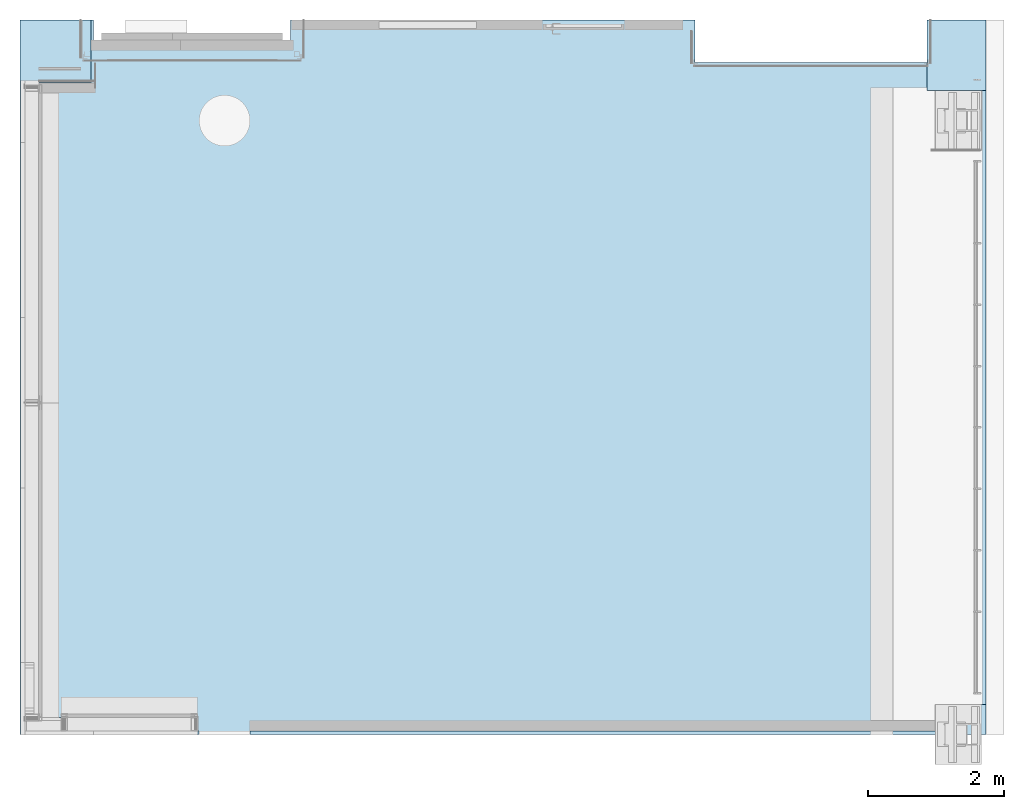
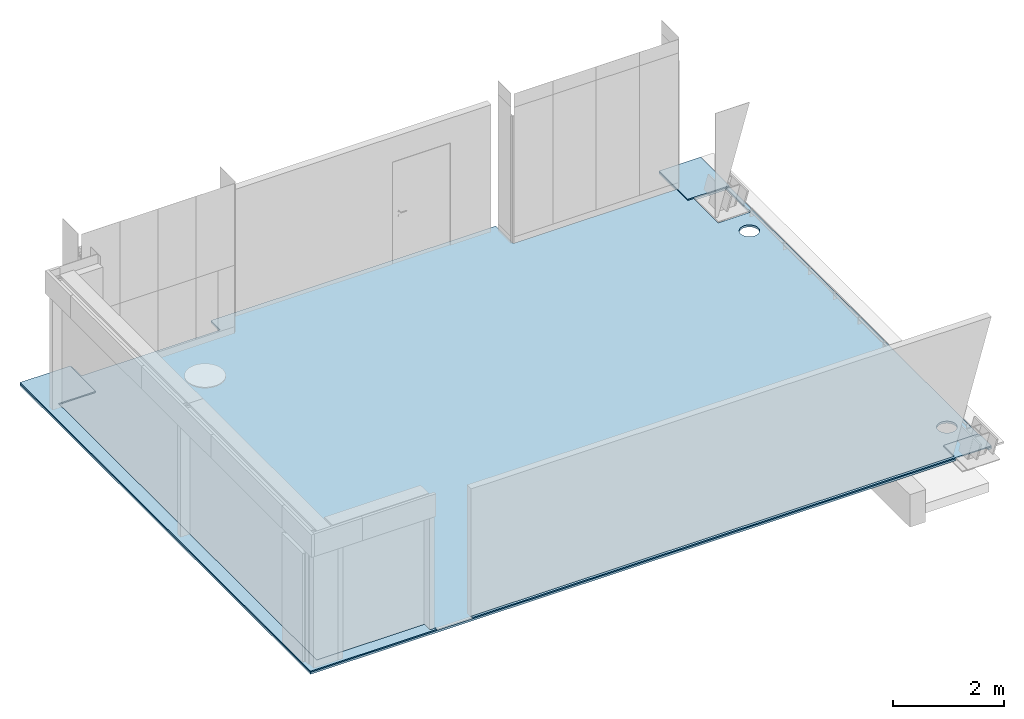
# One storey, part 8 of 14: 2 slabs.
"""IFC2X3 building model written with IfcOpenShell, lengths in millimetres."""

from ifc_helpers import new_model, entity, si_unit, converted_unit, derived_unit, direction, frame, origin_with_axes, place, context, subcontext, project, spatial, faceted_brep, material, layer, layer_set, type_object, element, save


model = new_model("IFC2X3")

# Units and contexts
model_context = context("Model", 3, precision=0.01, world=frame((0.0, 4.29681676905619e-09, 0.0)), true_north=direction((4.01073788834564e-13, 1.0)))
plan_context = context("Plan", 3, precision=0.01, world=frame((0.0, 4.29681676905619e-09, 0.0)), true_north=direction((4.01073788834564e-13, 1.0)))
body_context = subcontext(model_context, "Body", "Model", "MODEL_VIEW")
ifc_project = project(units=[converted_unit("PLANEANGLEUNIT", "DEGREE", entity("IfcPositiveLengthMeasure", 0.0174532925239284), si_unit("PLANEANGLEUNIT", "RADIAN"), dimensions=[0, 0, 0, 0, 0, 0, 0]), si_unit("AREAUNIT", "SQUARE_METRE"), si_unit("LENGTHUNIT", "METRE", prefix="MILLI"), si_unit("MASSUNIT", "GRAM", prefix="KILO"), si_unit("POWERUNIT", "WATT"), si_unit("PRESSUREUNIT", "PASCAL"), si_unit("FORCEUNIT", "NEWTON", prefix="KILO"), si_unit("ELECTRICVOLTAGEUNIT", "VOLT"), si_unit("ELECTRICCURRENTUNIT", "AMPERE"), si_unit("THERMODYNAMICTEMPERATUREUNIT", "DEGREE_CELSIUS"), si_unit("TIMEUNIT", "SECOND"), si_unit("VOLUMEUNIT", "CUBIC_METRE"), derived_unit("LINEARVELOCITYUNIT", [(si_unit("LENGTHUNIT", "METRE"), 1), (si_unit("TIMEUNIT", "SECOND"), -1)]), derived_unit("VOLUMETRICFLOWRATEUNIT", [(si_unit("VOLUMEUNIT", "CUBIC_METRE"), 1), (si_unit("TIMEUNIT", "SECOND"), -1)]), derived_unit("THERMALTRANSMITTANCEUNIT", [(si_unit("POWERUNIT", "WATT"), 1), (si_unit("THERMODYNAMICTEMPERATUREUNIT", "KELVIN"), -1), (si_unit("AREAUNIT", "SQUARE_METRE"), -1)]), derived_unit("SOUNDPRESSUREUNIT", [(si_unit("PRESSUREUNIT", "PASCAL"), 1)])], contexts=[model_context, plan_context])

# Site, building, storey
site_placement = place(None, origin_with_axes())
site = spatial("IfcSite", under=ifc_project, at=site_placement, Name="ENGM", CompositionType="ELEMENT")
building_placement = place(site_placement, origin_with_axes())
building = spatial("IfcBuilding", under=site, at=building_placement, Name="TI", CompositionType="ELEMENT")
storey_placement = place(building_placement, frame((0.0, 0.0, 210900.0), z_axis=(0.0, 0.0, 1.0), x_axis=(1.0, 0.0, 0.0)))
storey = spatial("IfcBuildingStorey", under=building, at=storey_placement, Name="Nivå F", CompositionType="ELEMENT", Elevation=210900.0)

# Slabs
ifc_material_1 = material(Name="T2_Tregulv Gulvplaner")
ifc_layer_1 = layer(ifc_material_1, 25.0)
ifc_layer_set_1 = layer_set([ifc_layer_1], Name="Floor:A254 - Tregulv inkl. lim - 25 mm")
slab_type_1 = type_object("IfcSlabType", Name="Floor:A254 - Tregulv inkl. lim - 25 mm", PredefinedType="FLOOR", material=ifc_layer_set_1)
slab_1_placement = place(storey_placement, frame((558471.991443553, 560500.0, -25.0), z_axis=(0.0, 0.0, 1.0), x_axis=(1.0, 0.0, 0.0)))
element("IfcSlab", 1, at=slab_1_placement, inside=storey, type_object=slab_type_1, Name="Floor:A254 - Tregulv inkl. lim - 25 mm", ObjectType="Floor:A254 - Tregulv inkl. lim - 25 mm", PredefinedType="FLOOR", context=body_context, shape_type="Brep", body=[
    faceted_brep([(53694.2741135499, 138975.499999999, 25.0), (53694.2741135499, 138975.499999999, -1.16386900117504e-11), (53694.2741135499, 137940.163867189, -1.16386900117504e-11), (53694.2741135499, 137940.163867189, 25.0), (52828.0153923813, 137940.163867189, -1.16386900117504e-11), (52828.0153923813, 137940.163867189, 25.0), (52828.0153923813, 138975.499999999, -1.16386900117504e-11), (52828.0153923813, 138975.499999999, 25.0), (40570.0125603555, 138975.499999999, 25.0), (40570.0125603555, 138975.499999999, -1.16386900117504e-11), (40570.0125603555, 138052.499999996, -1.16386900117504e-11), (40570.0125603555, 138052.499999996, 25.0), (39798.0085564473, 138052.499999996, -1.16386900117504e-11), (39798.0085564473, 138052.499999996, 25.0), (39798.0085564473, 128750.020350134, -1.16386900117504e-11), (39798.0085564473, 128750.020350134, 25.0), (42043.0085564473, 128750.020350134, -1.16386900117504e-11), (42043.0085564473, 128750.020350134, 25.0), (42043.0085564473, 128550.0, -1.16386900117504e-11), (42043.0085564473, 128550.0, 25.0), (42156.3568377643, 128550.0, -1.16386900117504e-11), (42156.3568377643, 128550.0, 25.0), (42153.9296742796, 128499.999999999, -1.16386900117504e-11), (42153.9296742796, 128499.999999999, 25.0), (42902.087438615, 128499.999999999, 25.0), (42902.087438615, 128499.999999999, -1.16386900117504e-11), (42899.6602751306, 128550.0, -1.16386900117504e-11), (42899.6602751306, 128550.0, 25.0), (52953.2069707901, 128550.0, -1.16386900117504e-11), (52953.2069707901, 128550.0, 25.0), (52953.2069707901, 128940.0, -1.16386900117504e-11), (52953.2069707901, 128940.0, 25.0), (53694.2741135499, 128940.0, -1.16386900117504e-11), (53694.2741135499, 128940.0, 25.0), (53694.2741135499, 128499.999999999, -1.16386900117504e-11), (53694.2741135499, 128499.999999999, 25.0), (39528.0085563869, 128499.999999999, 24.9999999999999), (39528.0085563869, 138975.499999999, 24.9999999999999), (39528.0085563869, 138975.499999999, -1.17097442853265e-11), (39528.0085563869, 128499.999999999, -1.17097442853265e-11)], [[[0, 1, 2, 3]], [[3, 2, 4, 5]], [[6, 7, 5, 4]], [[8, 9, 10, 11]], [[11, 10, 12, 13]], [[13, 12, 14, 15]], [[15, 14, 16, 17]], [[17, 16, 18, 19]], [[19, 18, 20, 21]], [[22, 23, 21, 20]], [[24, 25, 26, 27]], [[27, 26, 28, 29]], [[29, 28, 30, 31]], [[31, 30, 32, 33]], [[34, 35, 33, 32]], [[7, 0, 3, 5]], [[23, 36, 37, 8, 11, 13, 15, 17, 19, 21]], [[35, 24, 27, 29, 31, 33]], [[25, 34, 32, 30, 28, 26]], [[9, 38, 39, 22, 20, 18, 16, 14, 12, 10]], [[1, 6, 4, 2]], [[38, 9, 8, 37]], [[7, 6, 1, 0]], [[37, 36, 39, 38]], [[36, 23, 22, 39]], [[35, 34, 25, 24]]], orient=[[False], [False], [False], [False], [False], [False], [False], [False], [False], [False], [False], [False], [False], [False], [False], [False], [False], [False], [False], [False], [False], [False], [False], [False], [False], [False]]),
])
ifc_material_2 = material(Name="T2_Mørtel")
ifc_layer_2 = layer(ifc_material_2, 45.0)
ifc_layer_set_2 = layer_set([ifc_layer_2], Name="Floor:A254 - Avretting 45mm")
slab_type_2 = type_object("IfcSlabType", Name="Floor:A254 - Avretting 45mm", PredefinedType="FLOOR", material=ifc_layer_set_2)
slab_2_placement = place(storey_placement, frame((557800.0, 487399.909911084, -70.0), z_axis=(0.0, 0.0, 1.0), x_axis=(1.0, 0.0, 0.0)))
element("IfcSlab", 2, at=slab_2_placement, inside=storey, type_object=slab_type_2, Name="Floor:A254 - Avretting 45mm", ObjectType="Floor:A254 - Avretting 45mm", PredefinedType="FLOOR", context=body_context, shape_type="Brep", body=[
    faceted_brep([(54366.2655571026, 212075.590088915, 45.0), (54366.2655571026, 212075.590088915, -7.0983219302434e-12), (54366.2655571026, 201600.090088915, -7.0983219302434e-12), (54366.2655571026, 201600.090088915, 45.0), (54298.1279316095, 201600.090088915, 45.0), (54298.1279316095, 202040.253956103, 45.0), (53625.1984143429, 202040.253956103, 45.0), (53625.1984143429, 201600.090088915, 45.0), (40199.9999999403, 201600.090088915, 44.9999999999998), (40199.9999999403, 212075.590088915, 44.9999999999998), (41280.0040039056, 212075.590088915, 45.0), (41280.0040039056, 211735.090088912, 45.0), (44169.9965820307, 211735.090088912, 45.0), (44169.9965820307, 212075.590088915, 45.0), (50100.0068359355, 212075.590088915, 45.0), (50100.0068359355, 211450.090088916, 45.0), (53500.0068359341, 211450.090088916, 45.0), (53500.0068359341, 212075.590088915, 45.0), (53625.1984143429, 211040.253956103, 45.0), (53625.1984143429, 210160.253956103, 45.0), (54298.1279316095, 210160.253956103, 45.0), (54298.1279316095, 211040.253956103, 45.0), (54158.8431348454, 211603.527682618, 45.0), (54145.2146997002, 211632.753956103, 45.0), (54126.718221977, 211659.169663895, 45.0), (54103.915707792, 211681.97217808, 45.0), (54077.5, 211700.468655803, 45.0), (54048.2737265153, 211714.097090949, 45.0), (54017.1249128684, 211722.44339041, 45.0), (53985.0, 211725.253956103, 45.0), (53952.8750871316, 211722.44339041, 45.0), (53921.7262734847, 211714.097090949, 45.0), (53892.5, 211700.468655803, 45.0), (53866.084292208, 211681.97217808, 45.0), (53843.281778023, 211659.169663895, 45.0), (53824.7853002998, 211632.753956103, 45.0), (53811.1568651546, 211603.527682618, 45.0), (53802.8105656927, 211572.378868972, 45.0), (53799.9999999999, 211540.253956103, 45.0), (53802.8105656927, 211508.129043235, 45.0), (53811.1568651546, 211476.980229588, 45.0), (53824.7853002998, 211447.753956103, 45.0), (53843.281778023, 211421.338248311, 45.0), (53866.084292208, 211398.535734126, 45.0), (53892.5, 211380.039256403, 45.0), (53921.7262734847, 211366.410821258, 45.0), (53952.8750871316, 211358.064521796, 45.0), (53985.0, 211355.253956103, 45.0), (54017.1249128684, 211358.064521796, 45.0), (54048.2737265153, 211366.410821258, 45.0), (54077.5, 211380.039256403, 45.0), (54103.915707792, 211398.535734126, 45.0), (54126.718221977, 211421.338248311, 45.0), (54145.2146997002, 211447.753956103, 45.0), (54158.8431348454, 211476.980229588, 45.0), (54167.1894343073, 211508.129043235, 45.0), (54170.0000000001, 211540.253956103, 45.0), (54167.1894343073, 211572.378868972, 45.0), (54158.8431348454, 209723.199948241, 45.0), (54145.2146997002, 209752.426221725, 45.0), (54126.718221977, 209778.841929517, 45.0), (54103.915707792, 209801.644443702, 45.0), (54077.5, 209820.140921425, 45.0), (54048.2737265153, 209833.769356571, 45.0), (54017.1249128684, 209842.115656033, 45.0), (53985.0, 209844.926221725, 45.0), (53952.8750871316, 209842.115656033, 45.0), (53921.7262734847, 209833.769356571, 45.0), (53892.5, 209820.140921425, 45.0), (53866.084292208, 209801.644443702, 45.0), (53843.281778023, 209778.841929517, 45.0), (53824.7853002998, 209752.426221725, 45.0), (53811.1568651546, 209723.199948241, 45.0), (53802.8105656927, 209692.051134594, 45.0), (53799.9999999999, 209659.926221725, 45.0), (53802.8105656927, 209627.801308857, 45.0), (53811.1568651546, 209596.65249521, 45.0), (53824.7853002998, 209567.426221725, 45.0), (53843.281778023, 209541.010513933, 45.0), (53866.084292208, 209518.207999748, 45.0), (53892.5, 209499.711522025, 45.0), (53921.7262734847, 209486.08308688, 45.0), (53952.8750871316, 209477.736787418, 45.0), (53985.0, 209474.926221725, 45.0), (54017.1249128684, 209477.736787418, 45.0), (54048.2737265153, 209486.08308688, 45.0), (54077.5, 209499.711522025, 45.0), (54103.915707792, 209518.207999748, 45.0), (54126.718221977, 209541.010513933, 45.0), (54145.2146997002, 209567.426221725, 45.0), (54158.8431348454, 209596.65249521, 45.0), (54167.1894343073, 209627.801308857, 45.0), (54170.0000000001, 209659.926221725, 45.0), (54167.1894343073, 209692.051134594, 45.0), (54158.8431348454, 202603.527682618, 45.0), (54145.2146997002, 202632.753956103, 45.0), (54126.718221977, 202659.169663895, 45.0), (54103.915707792, 202681.97217808, 45.0), (54077.5, 202700.468655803, 45.0), (54048.2737265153, 202714.097090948, 45.0), (54017.1249128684, 202722.44339041, 45.0), (53985.0, 202725.253956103, 45.0), (53952.8750871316, 202722.44339041, 45.0), (53921.7262734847, 202714.097090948, 45.0), (53892.5, 202700.468655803, 45.0), (53866.084292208, 202681.97217808, 45.0), (53843.281778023, 202659.169663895, 45.0), (53824.7853002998, 202632.753956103, 45.0), (53811.1568651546, 202603.527682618, 45.0), (53802.8105656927, 202572.378868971, 45.0), (53799.9999999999, 202540.253956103, 45.0), (53802.8105656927, 202508.129043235, 45.0), (53811.1568651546, 202476.980229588, 45.0), (53824.7853002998, 202447.753956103, 45.0), (53843.281778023, 202421.338248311, 45.0), (53866.084292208, 202398.535734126, 45.0), (53892.5, 202380.039256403, 45.0), (53921.7262734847, 202366.410821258, 45.0), (53952.8750871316, 202358.064521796, 45.0), (53985.0, 202355.253956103, 45.0), (54017.1249128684, 202358.064521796, 45.0), (54048.2737265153, 202366.410821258, 45.0), (54077.5, 202380.039256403, 45.0), (54103.915707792, 202398.535734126, 45.0), (54126.718221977, 202421.338248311, 45.0), (54145.2146997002, 202447.753956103, 45.0), (54158.8431348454, 202476.980229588, 45.0), (54167.1894343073, 202508.129043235, 45.0), (54170.0000000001, 202540.253956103, 45.0), (54167.1894343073, 202572.378868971, 45.0), (53500.0068359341, 212075.590088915, 0.0), (53500.0068359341, 211450.090088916, 0.0), (50100.0068359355, 211450.090088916, 0.0), (50100.0068359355, 212075.590088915, 0.0), (44169.9965820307, 212075.590088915, 0.0), (44169.9965820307, 211735.090088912, 0.0), (41280.0040039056, 211735.090088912, 0.0), (41280.0040039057, 212075.590088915, 0.0), (40199.9999999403, 212075.590088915, -7.38964445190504e-12), (40199.9999999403, 201600.090088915, -7.38964445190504e-12), (53625.1984143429, 201600.090088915, 0.0), (53625.1984143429, 202040.253956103, 0.0), (54298.1279316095, 202040.253956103, 0.0), (54298.1279316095, 201600.090088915, 0.0), (53625.1984143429, 210160.253956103, 0.0), (53625.1984143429, 211040.253956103, 0.0), (54298.1279316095, 211040.253956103, 0.0), (54298.1279316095, 210160.253956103, 0.0), (54167.1894343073, 211508.129043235, 0.0), (54158.8431348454, 211476.980229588, 0.0), (54145.2146997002, 211447.753956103, 0.0), (54126.718221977, 211421.338248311, 0.0), (54103.915707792, 211398.535734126, 0.0), (54077.5, 211380.039256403, 0.0), (54048.2737265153, 211366.410821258, 0.0), (54017.1249128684, 211358.064521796, 0.0), (53985.0, 211355.253956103, 0.0), (53952.8750871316, 211358.064521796, 0.0), (53921.7262734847, 211366.410821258, 0.0), (53892.5, 211380.039256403, 0.0), (53866.084292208, 211398.535734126, 0.0), (53843.281778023, 211421.338248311, 0.0), (53824.7853002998, 211447.753956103, 0.0), (53811.1568651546, 211476.980229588, 0.0), (53802.8105656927, 211508.129043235, 0.0), (53799.9999999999, 211540.253956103, 0.0), (53802.8105656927, 211572.378868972, 0.0), (53811.1568651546, 211603.527682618, 0.0), (53824.7853002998, 211632.753956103, 0.0), (53843.281778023, 211659.169663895, 0.0), (53866.084292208, 211681.97217808, 0.0), (53892.5, 211700.468655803, 0.0), (53921.7262734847, 211714.097090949, 0.0), (53952.8750871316, 211722.44339041, 0.0), (53985.0, 211725.253956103, 0.0), (54017.1249128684, 211722.44339041, 0.0), (54048.2737265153, 211714.097090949, 0.0), (54077.5, 211700.468655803, 0.0), (54103.915707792, 211681.97217808, 0.0), (54126.718221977, 211659.169663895, 0.0), (54145.2146997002, 211632.753956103, 0.0), (54158.8431348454, 211603.527682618, 0.0), (54167.1894343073, 211572.378868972, 0.0), (54170.0000000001, 211540.253956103, 0.0), (54167.1894343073, 209627.801308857, 0.0), (54158.8431348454, 209596.65249521, 0.0), (54145.2146997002, 209567.426221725, 0.0), (54126.718221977, 209541.010513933, 0.0), (54103.915707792, 209518.207999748, 0.0), (54077.5, 209499.711522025, 0.0), (54048.2737265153, 209486.08308688, 0.0), (54017.1249128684, 209477.736787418, 0.0), (53985.0, 209474.926221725, 0.0), (53952.8750871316, 209477.736787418, 0.0), (53921.7262734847, 209486.08308688, 0.0), (53892.5, 209499.711522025, 0.0), (53866.084292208, 209518.207999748, 0.0), (53843.281778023, 209541.010513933, 0.0), (53824.7853002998, 209567.426221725, 0.0), (53811.1568651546, 209596.65249521, 0.0), (53802.8105656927, 209627.801308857, 0.0), (53799.9999999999, 209659.926221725, 0.0), (53802.8105656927, 209692.051134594, 0.0), (53811.1568651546, 209723.199948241, 0.0), (53824.7853002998, 209752.426221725, 0.0), (53843.281778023, 209778.841929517, 0.0), (53866.084292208, 209801.644443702, 0.0), (53892.5, 209820.140921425, 0.0), (53921.7262734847, 209833.769356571, 0.0), (53952.8750871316, 209842.115656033, 0.0), (53985.0, 209844.926221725, 0.0), (54017.1249128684, 209842.115656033, 0.0), (54048.2737265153, 209833.769356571, 0.0), (54077.5, 209820.140921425, 0.0), (54103.915707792, 209801.644443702, 0.0), (54126.718221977, 209778.841929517, 0.0), (54145.2146997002, 209752.426221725, 0.0), (54158.8431348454, 209723.199948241, 0.0), (54167.1894343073, 209692.051134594, 0.0), (54170.0000000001, 209659.926221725, 0.0), (54167.1894343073, 202508.129043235, 0.0), (54158.8431348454, 202476.980229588, 0.0), (54145.2146997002, 202447.753956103, 0.0), (54126.718221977, 202421.338248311, 0.0), (54103.915707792, 202398.535734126, 0.0), (54077.5, 202380.039256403, 0.0), (54048.2737265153, 202366.410821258, 0.0), (54017.1249128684, 202358.064521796, 0.0), (53985.0, 202355.253956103, 0.0), (53952.8750871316, 202358.064521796, 0.0), (53921.7262734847, 202366.410821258, 0.0), (53892.5, 202380.039256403, 0.0), (53866.084292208, 202398.535734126, 0.0), (53843.281778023, 202421.338248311, 0.0), (53824.7853002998, 202447.753956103, 0.0), (53811.1568651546, 202476.980229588, 0.0), (53802.8105656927, 202508.129043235, 0.0), (53799.9999999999, 202540.253956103, 0.0), (53802.8105656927, 202572.378868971, 0.0), (53811.1568651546, 202603.527682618, 0.0), (53824.7853002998, 202632.753956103, 0.0), (53843.281778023, 202659.169663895, 0.0), (53866.084292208, 202681.97217808, 0.0), (53892.5, 202700.468655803, 0.0), (53921.7262734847, 202714.097090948, 0.0), (53952.8750871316, 202722.44339041, 0.0), (53985.0, 202725.253956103, 0.0), (54017.1249128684, 202722.44339041, 0.0), (54048.2737265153, 202714.097090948, 0.0), (54077.5, 202700.468655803, 0.0), (54103.915707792, 202681.97217808, 0.0), (54126.718221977, 202659.169663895, 0.0), (54145.2146997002, 202632.753956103, 0.0), (54158.8431348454, 202603.527682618, 0.0), (54167.1894343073, 202572.378868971, 0.0), (54170.0000000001, 202540.253956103, 0.0)], [[[0, 1, 2, 3]], [[3, 4, 5, 6, 7, 8, 9, 10, 11, 12, 13, 14, 15, 16, 17, 0], [18, 19, 20, 21], [22, 23, 24, 25, 26, 27, 28, 29, 30, 31, 32, 33, 34, 35, 36, 37, 38, 39, 40, 41, 42, 43, 44, 45, 46, 47, 48, 49, 50, 51, 52, 53, 54, 55, 56, 57], [58, 59, 60, 61, 62, 63, 64, 65, 66, 67, 68, 69, 70, 71, 72, 73, 74, 75, 76, 77, 78, 79, 80, 81, 82, 83, 84, 85, 86, 87, 88, 89, 90, 91, 92, 93], [94, 95, 96, 97, 98, 99, 100, 101, 102, 103, 104, 105, 106, 107, 108, 109, 110, 111, 112, 113, 114, 115, 116, 117, 118, 119, 120, 121, 122, 123, 124, 125, 126, 127, 128, 129]], [[1, 130, 131, 132, 133, 134, 135, 136, 137, 138, 139, 140, 141, 142, 143, 2], [144, 145, 146, 147], [148, 149, 150, 151, 152, 153, 154, 155, 156, 157, 158, 159, 160, 161, 162, 163, 164, 165, 166, 167, 168, 169, 170, 171, 172, 173, 174, 175, 176, 177, 178, 179, 180, 181, 182, 183], [184, 185, 186, 187, 188, 189, 190, 191, 192, 193, 194, 195, 196, 197, 198, 199, 200, 201, 202, 203, 204, 205, 206, 207, 208, 209, 210, 211, 212, 213, 214, 215, 216, 217, 218, 219], [220, 221, 222, 223, 224, 225, 226, 227, 228, 229, 230, 231, 232, 233, 234, 235, 236, 237, 238, 239, 240, 241, 242, 243, 244, 245, 246, 247, 248, 249, 250, 251, 252, 253, 254, 255]], [[134, 13, 12, 135]], [[11, 136, 135, 12]], [[10, 137, 136, 11]], [[130, 17, 16, 131]], [[15, 132, 131, 16]], [[14, 133, 132, 15]], [[4, 143, 142, 5]], [[140, 7, 6, 141]], [[5, 142, 141, 6]], [[20, 147, 146, 21]], [[19, 144, 147, 20]], [[18, 145, 144, 19]], [[21, 146, 145, 18]], [[56, 183, 182, 57]], [[55, 148, 183, 56]], [[54, 149, 148, 55]], [[53, 150, 149, 54]], [[52, 151, 150, 53]], [[51, 152, 151, 52]], [[50, 153, 152, 51]], [[49, 154, 153, 50]], [[48, 155, 154, 49]], [[47, 156, 155, 48]], [[46, 157, 156, 47]], [[45, 158, 157, 46]], [[44, 159, 158, 45]], [[43, 160, 159, 44]], [[42, 161, 160, 43]], [[41, 162, 161, 42]], [[40, 163, 162, 41]], [[39, 164, 163, 40]], [[38, 165, 164, 39]], [[37, 166, 165, 38]], [[36, 167, 166, 37]], [[35, 168, 167, 36]], [[34, 169, 168, 35]], [[33, 170, 169, 34]], [[32, 171, 170, 33]], [[31, 172, 171, 32]], [[30, 173, 172, 31]], [[29, 174, 173, 30]], [[28, 175, 174, 29]], [[27, 176, 175, 28]], [[26, 177, 176, 27]], [[25, 178, 177, 26]], [[24, 179, 178, 25]], [[23, 180, 179, 24]], [[22, 181, 180, 23]], [[57, 182, 181, 22]], [[92, 219, 218, 93]], [[91, 184, 219, 92]], [[90, 185, 184, 91]], [[89, 186, 185, 90]], [[88, 187, 186, 89]], [[87, 188, 187, 88]], [[86, 189, 188, 87]], [[85, 190, 189, 86]], [[84, 191, 190, 85]], [[83, 192, 191, 84]], [[82, 193, 192, 83]], [[81, 194, 193, 82]], [[80, 195, 194, 81]], [[79, 196, 195, 80]], [[78, 197, 196, 79]], [[77, 198, 197, 78]], [[76, 199, 198, 77]], [[75, 200, 199, 76]], [[74, 201, 200, 75]], [[73, 202, 201, 74]], [[72, 203, 202, 73]], [[71, 204, 203, 72]], [[70, 205, 204, 71]], [[69, 206, 205, 70]], [[68, 207, 206, 69]], [[67, 208, 207, 68]], [[66, 209, 208, 67]], [[65, 210, 209, 66]], [[64, 211, 210, 65]], [[63, 212, 211, 64]], [[62, 213, 212, 63]], [[61, 214, 213, 62]], [[60, 215, 214, 61]], [[59, 216, 215, 60]], [[58, 217, 216, 59]], [[93, 218, 217, 58]], [[128, 255, 254, 129]], [[127, 220, 255, 128]], [[126, 221, 220, 127]], [[125, 222, 221, 126]], [[124, 223, 222, 125]], [[123, 224, 223, 124]], [[122, 225, 224, 123]], [[121, 226, 225, 122]], [[120, 227, 226, 121]], [[119, 228, 227, 120]], [[118, 229, 228, 119]], [[117, 230, 229, 118]], [[116, 231, 230, 117]], [[115, 232, 231, 116]], [[114, 233, 232, 115]], [[113, 234, 233, 114]], [[112, 235, 234, 113]], [[111, 236, 235, 112]], [[110, 237, 236, 111]], [[109, 238, 237, 110]], [[108, 239, 238, 109]], [[107, 240, 239, 108]], [[106, 241, 240, 107]], [[105, 242, 241, 106]], [[104, 243, 242, 105]], [[103, 244, 243, 104]], [[102, 245, 244, 103]], [[101, 246, 245, 102]], [[100, 247, 246, 101]], [[99, 248, 247, 100]], [[98, 249, 248, 99]], [[97, 250, 249, 98]], [[96, 251, 250, 97]], [[95, 252, 251, 96]], [[94, 253, 252, 95]], [[129, 254, 253, 94]], [[138, 137, 10, 9]], [[17, 130, 1, 0]], [[134, 133, 14, 13]], [[9, 8, 139, 138]], [[8, 7, 140, 139]], [[143, 4, 3, 2]]], orient=[[False], [False, False, False, False, False], [False, False, False, False, False], [False], [False], [False], [False], [False], [False], [False], [False], [False], [False], [False], [False], [False], [False], [False], [False], [False], [False], [False], [False], [False], [False], [False], [False], [False], [False], [False], [False], [False], [False], [False], [False], [False], [False], [False], [False], [False], [False], [False], [False], [False], [False], [False], [False], [False], [False], [False], [False], [False], [False], [False], [False], [False], [False], [False], [False], [False], [False], [False], [False], [False], [False], [False], [False], [False], [False], [False], [False], [False], [False], [False], [False], [False], [False], [False], [False], [False], [False], [False], [False], [False], [False], [False], [False], [False], [False], [False], [False], [False], [False], [False], [False], [False], [False], [False], [False], [False], [False], [False], [False], [False], [False], [False], [False], [False], [False], [False], [False], [False], [False], [False], [False], [False], [False], [False], [False], [False], [False], [False], [False], [False], [False], [False], [False], [False], [False], [False]]),
])

save(model, "model.ifc")
